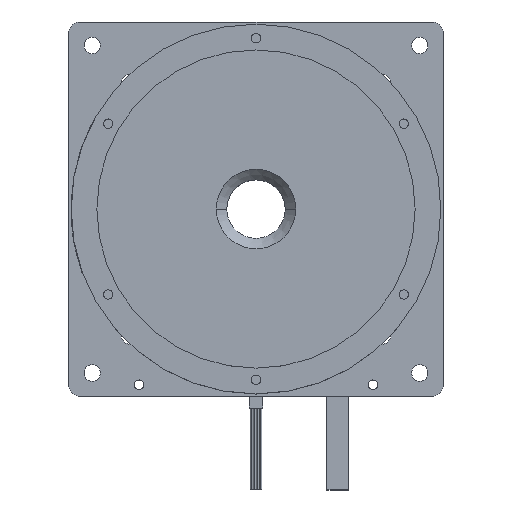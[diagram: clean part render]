
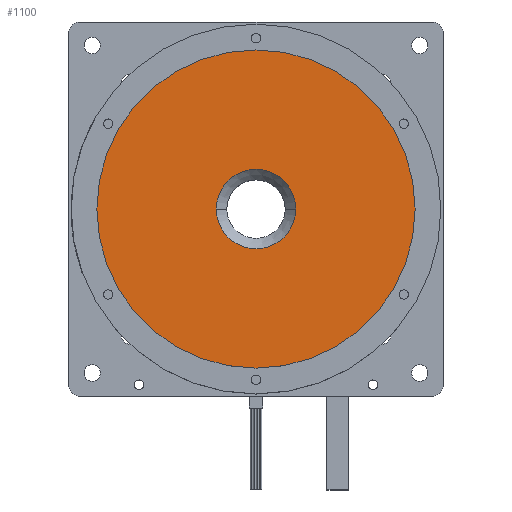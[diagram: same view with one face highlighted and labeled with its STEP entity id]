
A CAD part, top view. The second image highlights one B-rep face of the part: STEP entity #1100.
In plain terms, the highlighted planar face has unit normal (0, 0, 1).
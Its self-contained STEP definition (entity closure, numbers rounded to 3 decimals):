
#55 = VERTEX_POINT ( 'NONE', #1632 ) ;
#73 = EDGE_CURVE ( 'NONE', #55, #78, #1664, .T. ) ;
#78 = VERTEX_POINT ( 'NONE', #1655 ) ;
#110 = VERTEX_POINT ( 'NONE', #1708 ) ;
#166 = VERTEX_POINT ( 'NONE', #1899 ) ;
#173 = EDGE_CURVE ( 'NONE', #110, #166, #1774, .T. ) ;
#986 = EDGE_CURVE ( 'NONE', #78, #55, #3283, .T. ) ;
#987 = EDGE_LOOP ( 'NONE', ( #1102, #1178 ) ) ;
#1099 = EDGE_LOOP ( 'NONE', ( #1105, #1103 ) ) ;
#1100 = ADVANCED_FACE ( 'NONE', ( #3204, #3202 ), #3079, .T. ) ;
#1102 = ORIENTED_EDGE ( 'NONE', *, *, #73, .T. ) ;
#1103 = ORIENTED_EDGE ( 'NONE', *, *, #1175, .F. ) ;
#1105 = ORIENTED_EDGE ( 'NONE', *, *, #173, .F. ) ;
#1175 = EDGE_CURVE ( 'NONE', #166, #110, #3667, .T. ) ;
#1178 = ORIENTED_EDGE ( 'NONE', *, *, #986, .T. ) ;
#1632 = CARTESIAN_POINT ( 'NONE',  ( 17., 0., 45. ) ) ;
#1646 = DIRECTION ( 'NONE',  ( 1., 0., 0. ) ) ;
#1647 = DIRECTION ( 'NONE',  ( 0., 0., -1. ) ) ;
#1648 = CARTESIAN_POINT ( 'NONE',  ( 0., 0., 45. ) ) ;
#1655 = CARTESIAN_POINT ( 'NONE',  ( -17., 0., 45. ) ) ;
#1663 = AXIS2_PLACEMENT_3D ( 'NONE', #1648, #1647, #1646 ) ;
#1664 = CIRCLE ( 'NONE', #1663, 17. ) ;
#1708 = CARTESIAN_POINT ( 'NONE',  ( -68., 0., 45. ) ) ;
#1774 = CIRCLE ( 'NONE', #1880, 68. ) ;
#1877 = DIRECTION ( 'NONE',  ( -1., 0., 0. ) ) ;
#1878 = DIRECTION ( 'NONE',  ( 0., 0., -1. ) ) ;
#1879 = CARTESIAN_POINT ( 'NONE',  ( 0., 0., 45. ) ) ;
#1880 = AXIS2_PLACEMENT_3D ( 'NONE', #1879, #1878, #1877 ) ;
#1899 = CARTESIAN_POINT ( 'NONE',  ( 68., 0., 45. ) ) ;
#3075 = AXIS2_PLACEMENT_3D ( 'NONE', #3198, #3197, #3195 ) ;
#3079 = PLANE ( 'NONE',  #3075 ) ;
#3195 = DIRECTION ( 'NONE',  ( 1., 0., 0. ) ) ;
#3197 = DIRECTION ( 'NONE',  ( 0., 0., 1. ) ) ;
#3198 = CARTESIAN_POINT ( 'NONE',  ( 0., -68., 45. ) ) ;
#3202 = FACE_OUTER_BOUND ( 'NONE', #1099, .T. ) ;
#3204 = FACE_BOUND ( 'NONE', #987, .T. ) ;
#3266 = DIRECTION ( 'NONE',  ( 1., 0., 0. ) ) ;
#3267 = DIRECTION ( 'NONE',  ( 0., 0., -1. ) ) ;
#3268 = AXIS2_PLACEMENT_3D ( 'NONE', #3421, #3267, #3266 ) ;
#3283 = CIRCLE ( 'NONE', #3268, 17. ) ;
#3421 = CARTESIAN_POINT ( 'NONE',  ( 0., 0., 45. ) ) ;
#3581 = DIRECTION ( 'NONE',  ( -1., 0., 0. ) ) ;
#3582 = AXIS2_PLACEMENT_3D ( 'NONE', #3595, #3662, #3581 ) ;
#3595 = CARTESIAN_POINT ( 'NONE',  ( 0., 0., 45. ) ) ;
#3662 = DIRECTION ( 'NONE',  ( 0., 0., -1. ) ) ;
#3667 = CIRCLE ( 'NONE', #3582, 68. ) ;
